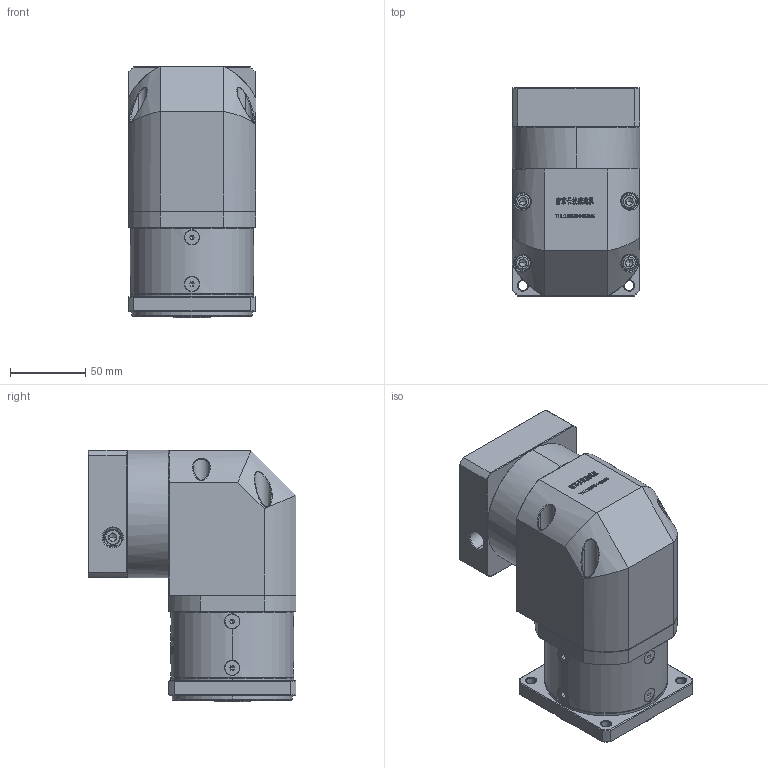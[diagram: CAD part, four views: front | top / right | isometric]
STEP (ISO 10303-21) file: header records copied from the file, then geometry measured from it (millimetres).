
FILE_DESCRIPTION (( 'STEP AP214' ), '1' );
FILE_NAME ('ZFR80-K15-L1-19-80-100-M6.step', '2022-05-08T12:08:12', ( '' ), ( 'Microsoft' ), 'SwSTEP 2.0', 'SolidWorks 2016', '' );
FILE_SCHEMA (( 'AUTOMOTIVE_DESIGN' ));
Length unit declared in the file: millimetre
Products named in the file (1): ZFR80-K15-L1-19-80-100-M6
Bounding box: 85 x 138.6 x 167.5 mm (x, y, z)
Volume: 1240449.9 mm3; surface area: 134594.4 mm2
Topology: 13 solids, 13 shells, 3011 faces, 7922 edges, 5060 vertices
Faces by surface type: plane 1610, bspline 614, cylinder 414, cone 359, torus 14
Entity records: 158913 total; most frequent: CARTESIAN_POINT 56953, ORIENTED_EDGE 15756, DIRECTION 11898, EDGE_CURVE 7878, VERTEX_POINT 5060, VECTOR 4926, LINE 4926, AXIS2_PLACEMENT_3D 3486
